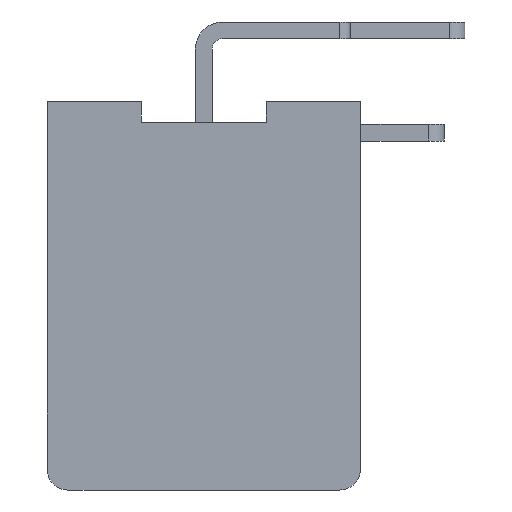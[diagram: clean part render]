
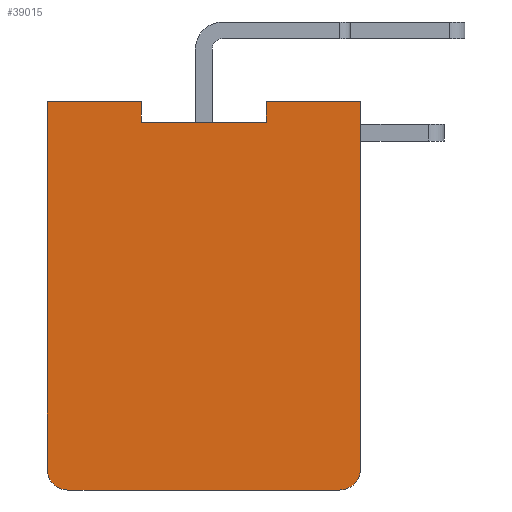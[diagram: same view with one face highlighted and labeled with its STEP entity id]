
A CAD part, left-side view. The second image highlights one B-rep face of the part: STEP entity #39015.
In plain terms, the highlighted planar face has unit normal (-1, 0, 0).
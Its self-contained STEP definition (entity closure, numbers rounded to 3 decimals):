
#93=DIRECTION('',(0.,-1.,0.));
#94=VECTOR('',#93,4.5);
#95=CARTESIAN_POINT('',(38.,16.929,0.));
#96=LINE('',#95,#94);
#141=DIRECTION('',(0.,-1.,0.));
#142=VECTOR('',#141,6.);
#143=CARTESIAN_POINT('',(38.,12.429,-1.));
#144=LINE('',#143,#142);
#2005=DIRECTION('',(0.,0.,1.));
#2006=VECTOR('',#2005,17.6);
#2007=CARTESIAN_POINT('',(38.,16.929,-17.6));
#2008=LINE('',#2007,#2006);
#2021=DIRECTION('',(0.,1.,0.));
#2022=VECTOR('',#2021,13.);
#2023=CARTESIAN_POINT('',(38.,2.929,-18.6));
#2024=LINE('',#2023,#2022);
#2037=DIRECTION('',(0.,0.,-1.));
#2038=VECTOR('',#2037,17.6);
#2039=CARTESIAN_POINT('',(38.,1.929,0.));
#2040=LINE('',#2039,#2038);
#7847=CARTESIAN_POINT('',(38.,15.929,-17.6));
#7848=DIRECTION('',(-1.,0.,0.));
#7849=DIRECTION('',(0.,1.,0.));
#7850=AXIS2_PLACEMENT_3D('',#7847,#7848,#7849);
#7852=DIRECTION('',(0.,0.,-1.));
#7853=VECTOR('',#7852,1.);
#7854=CARTESIAN_POINT('',(38.,6.429,0.));
#7855=LINE('',#7854,#7853);
#7856=DIRECTION('',(0.,1.,0.));
#7857=VECTOR('',#7856,4.5);
#7858=CARTESIAN_POINT('',(38.,1.929,0.));
#7859=LINE('',#7858,#7857);
#7860=CARTESIAN_POINT('',(38.,2.929,-17.6));
#7861=DIRECTION('',(-1.,0.,0.));
#7862=DIRECTION('',(0.,0.,-1.));
#7863=AXIS2_PLACEMENT_3D('',#7860,#7861,#7862);
#7873=DIRECTION('',(0.,0.,-1.));
#7874=VECTOR('',#7873,1.);
#7875=CARTESIAN_POINT('',(38.,12.429,0.));
#7876=LINE('',#7875,#7874);
#26159=CARTESIAN_POINT('',(38.,1.929,0.));
#26160=VERTEX_POINT('',#26159);
#26161=CARTESIAN_POINT('',(38.,6.429,0.));
#26162=VERTEX_POINT('',#26161);
#26187=CARTESIAN_POINT('',(38.,6.429,-1.));
#26188=VERTEX_POINT('',#26187);
#26189=CARTESIAN_POINT('',(38.,16.929,-17.6));
#26190=CARTESIAN_POINT('',(38.,15.929,-18.6));
#26191=VERTEX_POINT('',#26189);
#26192=VERTEX_POINT('',#26190);
#26193=CARTESIAN_POINT('',(38.,16.929,0.));
#26194=VERTEX_POINT('',#26193);
#26195=CARTESIAN_POINT('',(38.,12.429,0.));
#26196=VERTEX_POINT('',#26195);
#26197=CARTESIAN_POINT('',(38.,12.429,-1.));
#26198=VERTEX_POINT('',#26197);
#26199=CARTESIAN_POINT('',(38.,1.929,-17.6));
#26200=VERTEX_POINT('',#26199);
#26201=CARTESIAN_POINT('',(38.,2.929,-18.6));
#26202=VERTEX_POINT('',#26201);
#38996=CARTESIAN_POINT('',(38.,16.929,0.));
#38997=DIRECTION('',(-1.,0.,0.));
#38998=DIRECTION('',(0.,-1.,0.));
#38999=AXIS2_PLACEMENT_3D('',#38996,#38997,#38998);
#39000=PLANE('',#38999);
#39001=ORIENTED_EDGE('',*,*,#30879,.T.);
#39002=ORIENTED_EDGE('',*,*,#30864,.F.);
#39003=ORIENTED_EDGE('',*,*,#30849,.T.);
#39004=ORIENTED_EDGE('',*,*,#28245,.T.);
#39006=ORIENTED_EDGE('',*,*,#39005,.T.);
#39007=ORIENTED_EDGE('',*,*,#28331,.T.);
#39009=ORIENTED_EDGE('',*,*,#39008,.F.);
#39010=ORIENTED_EDGE('',*,*,#27988,.F.);
#39011=ORIENTED_EDGE('',*,*,#30909,.T.);
#39012=ORIENTED_EDGE('',*,*,#30894,.F.);
#39013=EDGE_LOOP('',(#39001,#39002,#39003,#39004,#39006,#39007,#39009,#39010,
#39011,#39012));
#39014=FACE_OUTER_BOUND('',#39013,.F.);
#39015=ADVANCED_FACE('',(#39014),#39000,.T.);
#7851=CIRCLE('',#7850,1.);
#7864=CIRCLE('',#7863,1.);
#27988=EDGE_CURVE('',#26160,#26162,#7859,.T.);
#28245=EDGE_CURVE('',#26194,#26196,#96,.T.);
#28331=EDGE_CURVE('',#26198,#26188,#144,.T.);
#30849=EDGE_CURVE('',#26191,#26194,#2008,.T.);
#30864=EDGE_CURVE('',#26191,#26192,#7851,.T.);
#30879=EDGE_CURVE('',#26202,#26192,#2024,.T.);
#30894=EDGE_CURVE('',#26202,#26200,#7864,.T.);
#30909=EDGE_CURVE('',#26160,#26200,#2040,.T.);
#39005=EDGE_CURVE('',#26196,#26198,#7876,.T.);
#39008=EDGE_CURVE('',#26162,#26188,#7855,.T.);
